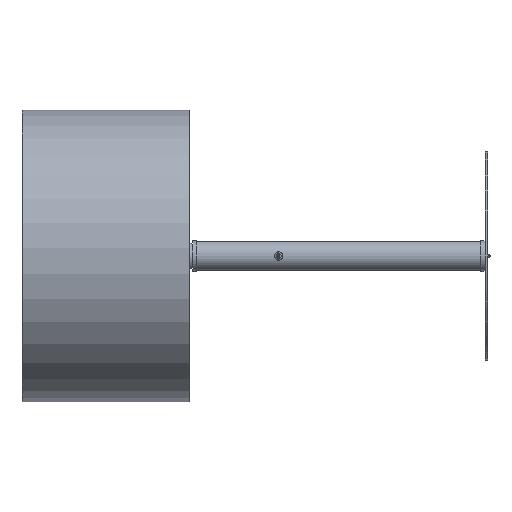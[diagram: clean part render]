
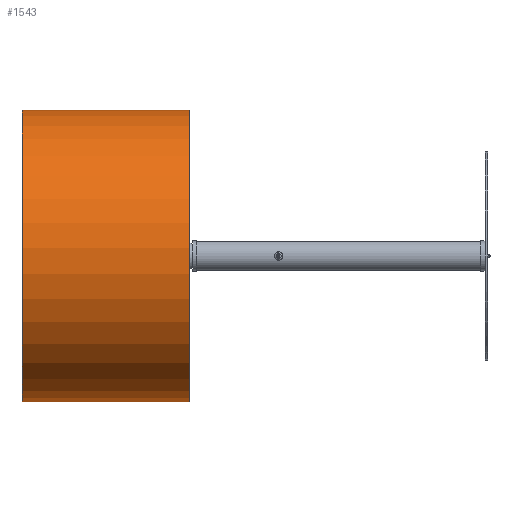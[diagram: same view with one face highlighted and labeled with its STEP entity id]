
A CAD part, left-side view. The second image highlights one B-rep face of the part: STEP entity #1543.
In plain terms, the highlighted cylindrical face has radius 175 mm (diameter 350 mm), a partial arc.
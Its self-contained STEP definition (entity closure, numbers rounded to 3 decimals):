
#28 = CARTESIAN_POINT ( 'NONE',  ( 0., 200., -175. ) ) ;
#80 = DIRECTION ( 'NONE',  ( 0., -1., 0. ) ) ;
#151 = VERTEX_POINT ( 'NONE', #28 ) ;
#154 = CARTESIAN_POINT ( 'NONE',  ( 0., 200., 0. ) ) ;
#207 = DIRECTION ( 'NONE',  ( 0., 0., 1. ) ) ;
#210 = AXIS2_PLACEMENT_3D ( 'NONE', #154, #1705, #589 ) ;
#229 = DIRECTION ( 'NONE',  ( 0., 0., -1. ) ) ;
#312 = VERTEX_POINT ( 'NONE', #1131 ) ;
#315 = VERTEX_POINT ( 'NONE', #1673 ) ;
#493 = VECTOR ( 'NONE', #80, 1000. ) ;
#589 = DIRECTION ( 'NONE',  ( 0., 0., 1. ) ) ;
#602 = AXIS2_PLACEMENT_3D ( 'NONE', #1623, #1632, #207 ) ;
#640 = EDGE_CURVE ( 'NONE', #151, #315, #771, .T. ) ;
#669 = CYLINDRICAL_SURFACE ( 'NONE', #714, 175. ) ;
#701 = EDGE_LOOP ( 'NONE', ( #1164, #1531, #1307, #1496 ) ) ;
#714 = AXIS2_PLACEMENT_3D ( 'NONE', #1498, #1641, #229 ) ;
#718 = CARTESIAN_POINT ( 'NONE',  ( 0., 200., -175. ) ) ;
#771 = CIRCLE ( 'NONE', #210, 175. ) ;
#808 = CARTESIAN_POINT ( 'NONE',  ( 0., 0., 175. ) ) ;
#988 = EDGE_CURVE ( 'NONE', #151, #312, #1587, .T. ) ;
#1001 = DIRECTION ( 'NONE',  ( 0., -1., 0. ) ) ;
#1059 = CIRCLE ( 'NONE', #602, 175. ) ;
#1071 = CARTESIAN_POINT ( 'NONE',  ( 0., 200., 175. ) ) ;
#1103 = FACE_OUTER_BOUND ( 'NONE', #701, .T. ) ;
#1131 = CARTESIAN_POINT ( 'NONE',  ( 0., 0., -175. ) ) ;
#1164 = ORIENTED_EDGE ( 'NONE', *, *, #1595, .F. ) ;
#1307 = ORIENTED_EDGE ( 'NONE', *, *, #988, .T. ) ;
#1496 = ORIENTED_EDGE ( 'NONE', *, *, #1572, .T. ) ;
#1498 = CARTESIAN_POINT ( 'NONE',  ( 0., 200., 0. ) ) ;
#1531 = ORIENTED_EDGE ( 'NONE', *, *, #640, .F. ) ;
#1543 = ADVANCED_FACE ( 'NONE', ( #1103 ), #669, .T. ) ;
#1572 = EDGE_CURVE ( 'NONE', #312, #1656, #1059, .T. ) ;
#1587 = LINE ( 'NONE', #718, #1755 ) ;
#1595 = EDGE_CURVE ( 'NONE', #315, #1656, #1778, .T. ) ;
#1623 = CARTESIAN_POINT ( 'NONE',  ( 0., 0., 0. ) ) ;
#1632 = DIRECTION ( 'NONE',  ( 0., 1., 0. ) ) ;
#1641 = DIRECTION ( 'NONE',  ( 0., -1., 0. ) ) ;
#1656 = VERTEX_POINT ( 'NONE', #808 ) ;
#1673 = CARTESIAN_POINT ( 'NONE',  ( 0., 200., 175. ) ) ;
#1705 = DIRECTION ( 'NONE',  ( 0., 1., 0. ) ) ;
#1755 = VECTOR ( 'NONE', #1001, 1000. ) ;
#1778 = LINE ( 'NONE', #1071, #493 ) ;
